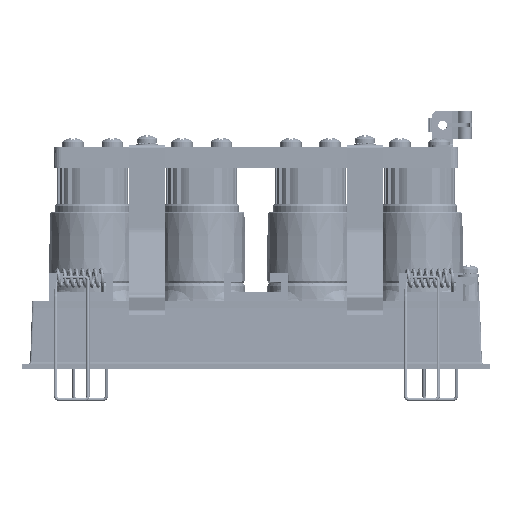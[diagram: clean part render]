
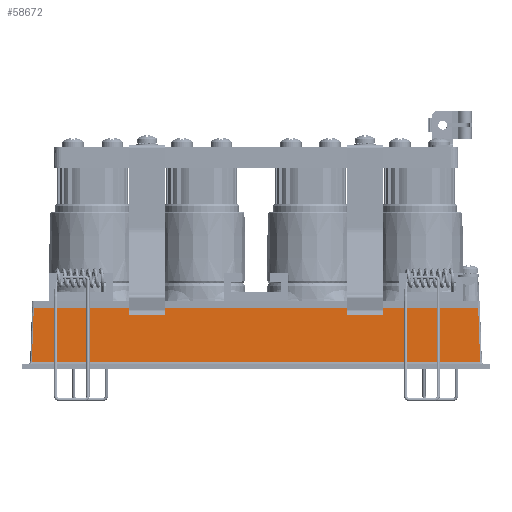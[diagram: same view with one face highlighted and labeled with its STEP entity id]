
A CAD part, front view. The second image highlights one B-rep face of the part: STEP entity #58672.
In plain terms, the highlighted planar face has unit normal (0, -0.999, 0.035).
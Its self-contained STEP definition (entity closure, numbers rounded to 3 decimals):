
#53305=CARTESIAN_POINT('',(82.791,12.791,17.006));
#53313=DIRECTION('',(1.,0.,0.));
#53314=VECTOR('',#53313,124.419);
#53315=CARTESIAN_POINT('',(82.791,12.791,17.006));
#53316=LINE('',#53315,#53314);
#53317=DIRECTION('',(0.035,-0.035,-0.999));
#53318=VECTOR('',#53317,15.042);
#53319=CARTESIAN_POINT('',(207.209,12.791,17.006));
#53320=LINE('',#53319,#53318);
#53321=DIRECTION('',(-1.,0.,0.));
#53322=VECTOR('',#53321,125.468);
#53323=CARTESIAN_POINT('',(207.734,12.267,1.983));
#53324=LINE('',#53323,#53322);
#53325=DIRECTION('',(0.035,0.035,0.999));
#53326=VECTOR('',#53325,15.042);
#53327=CARTESIAN_POINT('',(82.266,12.267,1.983));
#53328=LINE('',#53327,#53326);
#53457=CARTESIAN_POINT('',(207.209,12.791,17.006));
#56103=CARTESIAN_POINT('',(207.734,12.267,1.983));
#56104=CARTESIAN_POINT('',(82.266,12.267,1.983));
#56105=VERTEX_POINT('',#56103);
#56106=VERTEX_POINT('',#56104);
#56418=VERTEX_POINT('',#53305);
#56437=VERTEX_POINT('',#53457);
#58658=CARTESIAN_POINT('',(115.,12.25,1.509));
#58659=DIRECTION('',(0.,-0.999,0.035));
#58660=DIRECTION('',(-1.,0.,0.));
#58661=AXIS2_PLACEMENT_3D('',#58658,#58659,#58660);
#58662=PLANE('',#58661);
#58664=ORIENTED_EDGE('',*,*,#58663,.T.);
#58666=ORIENTED_EDGE('',*,*,#58665,.T.);
#58668=ORIENTED_EDGE('',*,*,#58667,.T.);
#58669=ORIENTED_EDGE('',*,*,#58650,.T.);
#58670=EDGE_LOOP('',(#58664,#58666,#58668,#58669));
#58671=FACE_OUTER_BOUND('',#58670,.F.);
#58672=ADVANCED_FACE('',(#58671),#58662,.T.);
#58650=EDGE_CURVE('',#56106,#56418,#53328,.T.);
#58663=EDGE_CURVE('',#56418,#56437,#53316,.T.);
#58665=EDGE_CURVE('',#56437,#56105,#53320,.T.);
#58667=EDGE_CURVE('',#56105,#56106,#53324,.T.);
